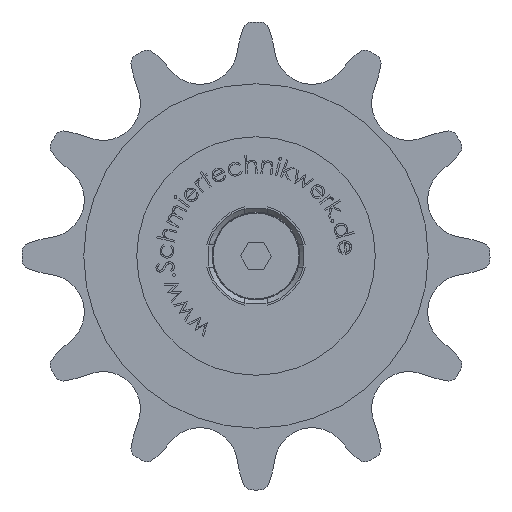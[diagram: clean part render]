
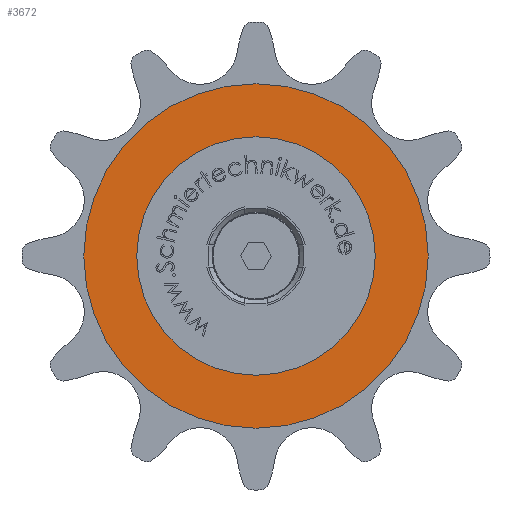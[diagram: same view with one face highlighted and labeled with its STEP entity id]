
A CAD part, front view. The second image highlights one B-rep face of the part: STEP entity #3672.
In plain terms, the highlighted planar face has unit normal (0, -1, 0).
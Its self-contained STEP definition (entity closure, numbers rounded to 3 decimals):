
#463 = DIRECTION ( 'NONE',  ( 0., 0., -1. ) ) ;
#603 = EDGE_LOOP ( 'NONE', ( #8350 ) ) ;
#3350 = DIRECTION ( 'NONE',  ( 0., 0., -1. ) ) ;
#3580 = CARTESIAN_POINT ( 'NONE',  ( 0., -30.2, -8. ) ) ;
#3672 = ADVANCED_FACE ( 'NONE', ( #5754, #25434 ), #15930, .F. ) ;
#4339 = DIRECTION ( 'NONE',  ( 0., 0., 1. ) ) ;
#5754 = FACE_OUTER_BOUND ( 'NONE', #19631, .T. ) ;
#6864 = ORIENTED_EDGE ( 'NONE', *, *, #7763, .F. ) ;
#6954 = CARTESIAN_POINT ( 'NONE',  ( 0., -30.2, 0. ) ) ;
#7763 = EDGE_CURVE ( 'NONE', #9796, #9796, #8192, .T. ) ;
#8192 = CIRCLE ( 'NONE', #18466, 19.5 ) ;
#8350 = ORIENTED_EDGE ( 'NONE', *, *, #18079, .F. ) ;
#8704 = DIRECTION ( 'NONE',  ( 0., 1., 0. ) ) ;
#9796 = VERTEX_POINT ( 'NONE', #17622 ) ;
#9891 = AXIS2_PLACEMENT_3D ( 'NONE', #22115, #8704, #4339 ) ;
#12911 = AXIS2_PLACEMENT_3D ( 'NONE', #20426, #21979, #463 ) ;
#15930 = PLANE ( 'NONE',  #9891 ) ;
#16610 = CIRCLE ( 'NONE', #12911, 8. ) ;
#17622 = CARTESIAN_POINT ( 'NONE',  ( 0., -30.2, -19.5 ) ) ;
#18079 = EDGE_CURVE ( 'NONE', #18900, #18900, #16610, .T. ) ;
#18466 = AXIS2_PLACEMENT_3D ( 'NONE', #6954, #22658, #3350 ) ;
#18900 = VERTEX_POINT ( 'NONE', #3580 ) ;
#19631 = EDGE_LOOP ( 'NONE', ( #6864 ) ) ;
#20426 = CARTESIAN_POINT ( 'NONE',  ( 0., -30.2, 0. ) ) ;
#21979 = DIRECTION ( 'NONE',  ( 0., -1., 0. ) ) ;
#22115 = CARTESIAN_POINT ( 'NONE',  ( 0., -30.2, 0. ) ) ;
#22658 = DIRECTION ( 'NONE',  ( 0., 1., 0. ) ) ;
#25434 = FACE_BOUND ( 'NONE', #603, .T. ) ;
